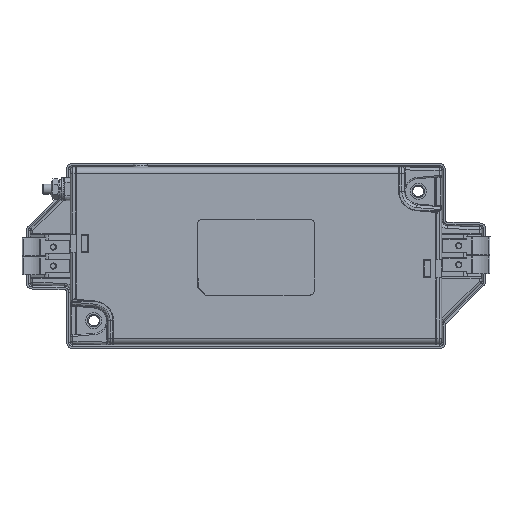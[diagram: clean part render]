
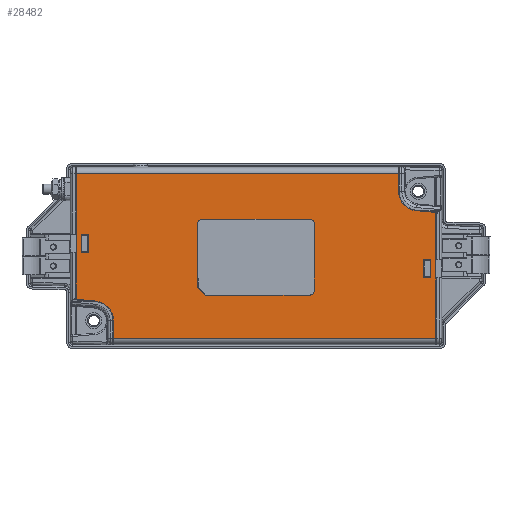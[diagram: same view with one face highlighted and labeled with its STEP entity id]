
A CAD part, top view. The second image highlights one B-rep face of the part: STEP entity #28482.
In plain terms, the highlighted planar face has unit normal (0, 0, 1).
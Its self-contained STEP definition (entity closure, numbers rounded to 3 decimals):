
#916=FACE_BOUND('',#4535,.T.);
#917=FACE_BOUND('',#4536,.T.);
#918=FACE_BOUND('',#4537,.T.);
#1389=PLANE('',#30518);
#2930=FACE_OUTER_BOUND('',#4534,.T.);
#4534=EDGE_LOOP('',(#21822,#21823,#21824,#21825,#21826,#21827,#21828,#21829,
#21830,#21831,#21832,#21833));
#4535=EDGE_LOOP('',(#21834,#21835,#21836,#21837));
#4536=EDGE_LOOP('',(#21838,#21839,#21840,#21841));
#4537=EDGE_LOOP('',(#21842,#21843,#21844,#21845,#21846,#21847,#21848,#21849,
#21850,#21851));
#6827=LINE('',#44644,#9540);
#6831=LINE('',#44656,#9544);
#6835=LINE('',#44667,#9548);
#6839=LINE('',#44675,#9552);
#6842=LINE('',#44679,#9555);
#6843=LINE('',#44684,#9556);
#6844=LINE('',#44686,#9557);
#6845=LINE('',#44690,#9558);
#6846=LINE('',#44692,#9559);
#6847=LINE('',#44694,#9560);
#6848=LINE('',#44696,#9561);
#6849=LINE('',#44698,#9562);
#6850=LINE('',#44702,#9563);
#6851=LINE('',#44704,#9564);
#6852=LINE('',#44705,#9565);
#6853=LINE('',#44708,#9566);
#6854=LINE('',#44710,#9567);
#6855=LINE('',#44712,#9568);
#6856=LINE('',#44713,#9569);
#6857=LINE('',#44716,#9570);
#6858=LINE('',#44718,#9571);
#6859=LINE('',#44720,#9572);
#6860=LINE('',#44721,#9573);
#6861=LINE('',#44722,#9574);
#6862=LINE('',#44723,#9575);
#9540=VECTOR('',#35590,10.);
#9544=VECTOR('',#35602,10.);
#9548=VECTOR('',#35614,10.);
#9552=VECTOR('',#35620,10.);
#9555=VECTOR('',#35625,10.);
#9556=VECTOR('',#35630,10.);
#9557=VECTOR('',#35631,10.);
#9558=VECTOR('',#35634,10.);
#9559=VECTOR('',#35635,10.);
#9560=VECTOR('',#35636,10.);
#9561=VECTOR('',#35637,10.);
#9562=VECTOR('',#35638,10.);
#9563=VECTOR('',#35641,10.);
#9564=VECTOR('',#35642,10.);
#9565=VECTOR('',#35643,10.);
#9566=VECTOR('',#35644,10.);
#9567=VECTOR('',#35645,10.);
#9568=VECTOR('',#35646,10.);
#9569=VECTOR('',#35647,10.);
#9570=VECTOR('',#35648,10.);
#9571=VECTOR('',#35649,10.);
#9572=VECTOR('',#35650,10.);
#9573=VECTOR('',#35651,10.);
#9574=VECTOR('',#35652,10.);
#9575=VECTOR('',#35653,10.);
#11188=CIRCLE('',#30505,2.);
#11190=CIRCLE('',#30509,2.);
#11192=CIRCLE('',#30513,2.);
#11193=CIRCLE('',#30519,7.5);
#11194=CIRCLE('',#30520,7.5);
#12859=VERTEX_POINT('',#44621);
#12863=VERTEX_POINT('',#44628);
#12864=VERTEX_POINT('',#44630);
#12867=VERTEX_POINT('',#44637);
#12868=VERTEX_POINT('',#44639);
#12869=VERTEX_POINT('',#44643);
#12872=VERTEX_POINT('',#44651);
#12873=VERTEX_POINT('',#44655);
#12876=VERTEX_POINT('',#44663);
#12879=VERTEX_POINT('',#44674);
#12880=VERTEX_POINT('',#44682);
#12881=VERTEX_POINT('',#44683);
#12882=VERTEX_POINT('',#44685);
#12883=VERTEX_POINT('',#44687);
#12884=VERTEX_POINT('',#44689);
#12885=VERTEX_POINT('',#44691);
#12886=VERTEX_POINT('',#44693);
#12887=VERTEX_POINT('',#44695);
#12888=VERTEX_POINT('',#44697);
#12889=VERTEX_POINT('',#44699);
#12890=VERTEX_POINT('',#44701);
#12891=VERTEX_POINT('',#44703);
#12892=VERTEX_POINT('',#44706);
#12893=VERTEX_POINT('',#44707);
#12894=VERTEX_POINT('',#44709);
#12895=VERTEX_POINT('',#44711);
#12896=VERTEX_POINT('',#44714);
#12897=VERTEX_POINT('',#44715);
#12898=VERTEX_POINT('',#44717);
#12899=VERTEX_POINT('',#44719);
#16040=EDGE_CURVE('',#12868,#12867,#11188,.T.);
#16042=EDGE_CURVE('',#12869,#12868,#6827,.T.);
#16046=EDGE_CURVE('',#12872,#12869,#11190,.T.);
#16048=EDGE_CURVE('',#12873,#12872,#6831,.T.);
#16052=EDGE_CURVE('',#12876,#12873,#11192,.T.);
#16054=EDGE_CURVE('',#12859,#12876,#6835,.T.);
#16058=EDGE_CURVE('',#12879,#12863,#6839,.T.);
#16061=EDGE_CURVE('',#12867,#12879,#6842,.T.);
#16062=EDGE_CURVE('',#12880,#12881,#6843,.T.);
#16063=EDGE_CURVE('',#12880,#12882,#6844,.T.);
#16064=EDGE_CURVE('',#12882,#12883,#11193,.T.);
#16065=EDGE_CURVE('',#12883,#12884,#6845,.T.);
#16066=EDGE_CURVE('',#12884,#12885,#6846,.T.);
#16067=EDGE_CURVE('',#12886,#12885,#6847,.T.);
#16068=EDGE_CURVE('',#12887,#12886,#6848,.T.);
#16069=EDGE_CURVE('',#12887,#12888,#6849,.T.);
#16070=EDGE_CURVE('',#12888,#12889,#11194,.T.);
#16071=EDGE_CURVE('',#12889,#12890,#6850,.T.);
#16072=EDGE_CURVE('',#12890,#12891,#6851,.T.);
#16073=EDGE_CURVE('',#12881,#12891,#6852,.T.);
#16074=EDGE_CURVE('',#12892,#12893,#6853,.T.);
#16075=EDGE_CURVE('',#12893,#12894,#6854,.T.);
#16076=EDGE_CURVE('',#12894,#12895,#6855,.T.);
#16077=EDGE_CURVE('',#12895,#12892,#6856,.T.);
#16078=EDGE_CURVE('',#12896,#12897,#6857,.T.);
#16079=EDGE_CURVE('',#12897,#12898,#6858,.T.);
#16080=EDGE_CURVE('',#12898,#12899,#6859,.T.);
#16081=EDGE_CURVE('',#12899,#12896,#6860,.T.);
#16082=EDGE_CURVE('',#12863,#12864,#6861,.T.);
#16083=EDGE_CURVE('',#12864,#12859,#6862,.T.);
#21822=ORIENTED_EDGE('',*,*,#16062,.F.);
#21823=ORIENTED_EDGE('',*,*,#16063,.T.);
#21824=ORIENTED_EDGE('',*,*,#16064,.T.);
#21825=ORIENTED_EDGE('',*,*,#16065,.T.);
#21826=ORIENTED_EDGE('',*,*,#16066,.T.);
#21827=ORIENTED_EDGE('',*,*,#16067,.F.);
#21828=ORIENTED_EDGE('',*,*,#16068,.F.);
#21829=ORIENTED_EDGE('',*,*,#16069,.T.);
#21830=ORIENTED_EDGE('',*,*,#16070,.T.);
#21831=ORIENTED_EDGE('',*,*,#16071,.T.);
#21832=ORIENTED_EDGE('',*,*,#16072,.T.);
#21833=ORIENTED_EDGE('',*,*,#16073,.F.);
#21834=ORIENTED_EDGE('',*,*,#16074,.T.);
#21835=ORIENTED_EDGE('',*,*,#16075,.T.);
#21836=ORIENTED_EDGE('',*,*,#16076,.T.);
#21837=ORIENTED_EDGE('',*,*,#16077,.T.);
#21838=ORIENTED_EDGE('',*,*,#16078,.T.);
#21839=ORIENTED_EDGE('',*,*,#16079,.T.);
#21840=ORIENTED_EDGE('',*,*,#16080,.T.);
#21841=ORIENTED_EDGE('',*,*,#16081,.T.);
#21842=ORIENTED_EDGE('',*,*,#16054,.T.);
#21843=ORIENTED_EDGE('',*,*,#16052,.T.);
#21844=ORIENTED_EDGE('',*,*,#16048,.T.);
#21845=ORIENTED_EDGE('',*,*,#16046,.T.);
#21846=ORIENTED_EDGE('',*,*,#16042,.T.);
#21847=ORIENTED_EDGE('',*,*,#16040,.T.);
#21848=ORIENTED_EDGE('',*,*,#16061,.T.);
#21849=ORIENTED_EDGE('',*,*,#16058,.T.);
#21850=ORIENTED_EDGE('',*,*,#16082,.T.);
#21851=ORIENTED_EDGE('',*,*,#16083,.T.);
#28482=ADVANCED_FACE('',(#2930,#916,#917,#918),#1389,.T.);
#30505=AXIS2_PLACEMENT_3D('',#44640,#35585,#35586);
#30509=AXIS2_PLACEMENT_3D('',#44652,#35597,#35598);
#30513=AXIS2_PLACEMENT_3D('',#44664,#35609,#35610);
#30518=AXIS2_PLACEMENT_3D('',#44681,#35628,#35629);
#30519=AXIS2_PLACEMENT_3D('',#44688,#35632,#35633);
#30520=AXIS2_PLACEMENT_3D('',#44700,#35639,#35640);
#35585=DIRECTION('center_axis',(0.,0.,-1.));
#35586=DIRECTION('ref_axis',(0.707,-0.707,0.));
#35590=DIRECTION('',(0.,-1.,0.));
#35597=DIRECTION('center_axis',(0.,0.,-1.));
#35598=DIRECTION('ref_axis',(0.707,0.707,0.));
#35602=DIRECTION('',(1.,0.,0.));
#35609=DIRECTION('center_axis',(0.,0.,-1.));
#35610=DIRECTION('ref_axis',(-0.707,0.707,0.));
#35614=DIRECTION('',(0.,1.,0.));
#35620=DIRECTION('',(-0.707,0.707,0.));
#35625=DIRECTION('',(-1.,0.,0.));
#35628=DIRECTION('center_axis',(0.,0.,1.));
#35629=DIRECTION('ref_axis',(0.,-1.,0.));
#35630=DIRECTION('',(-0.676,0.737,0.));
#35631=DIRECTION('',(0.996,-0.087,0.));
#35632=DIRECTION('center_axis',(0.,0.,-1.));
#35633=DIRECTION('ref_axis',(1.,0.,0.));
#35634=DIRECTION('',(0.,-1.,0.));
#35635=DIRECTION('',(1.,0.,0.));
#35636=DIRECTION('',(0.,-1.,0.));
#35637=DIRECTION('',(0.676,-0.737,0.));
#35638=DIRECTION('',(-0.996,0.087,0.));
#35639=DIRECTION('center_axis',(0.,0.,-1.));
#35640=DIRECTION('ref_axis',(-1.,0.,0.));
#35641=DIRECTION('',(0.,1.,0.));
#35642=DIRECTION('',(-1.,0.,0.));
#35643=DIRECTION('',(0.,1.,0.));
#35644=DIRECTION('',(1.,0.,0.));
#35645=DIRECTION('',(0.,-1.,0.));
#35646=DIRECTION('',(-1.,0.,0.));
#35647=DIRECTION('',(0.,1.,0.));
#35648=DIRECTION('',(-1.,0.,0.));
#35649=DIRECTION('',(0.,1.,0.));
#35650=DIRECTION('',(1.,0.,0.));
#35651=DIRECTION('',(0.,-1.,0.));
#35652=DIRECTION('',(-0.707,0.707,0.));
#35653=DIRECTION('',(0.,1.,0.));
#44621=CARTESIAN_POINT('',(-3.,-9.025,34.9));
#44628=CARTESIAN_POINT('',(-0.525,-15.,34.9));
#44630=CARTESIAN_POINT('',(-3.,-12.525,34.9));
#44637=CARTESIAN_POINT('',(41.,-15.525,34.9));
#44639=CARTESIAN_POINT('',(43.,-13.525,34.9));
#44640=CARTESIAN_POINT('Origin',(41.,-13.525,34.9));
#44643=CARTESIAN_POINT('',(43.,12.475,34.9));
#44644=CARTESIAN_POINT('',(43.,7.237,34.9));
#44651=CARTESIAN_POINT('',(41.,14.475,34.9));
#44652=CARTESIAN_POINT('Origin',(41.,12.475,34.9));
#44655=CARTESIAN_POINT('',(-1.,14.475,34.9));
#44656=CARTESIAN_POINT('',(8.5,14.475,34.9));
#44663=CARTESIAN_POINT('',(-3.,12.475,34.9));
#44664=CARTESIAN_POINT('Origin',(-1.,12.475,34.9));
#44667=CARTESIAN_POINT('',(-3.,-7.763,34.9));
#44674=CARTESIAN_POINT('',(0.,-15.525,34.9));
#44675=CARTESIAN_POINT('',(0.369,-15.894,34.9));
#44679=CARTESIAN_POINT('',(31.5,-15.525,34.9));
#44681=CARTESIAN_POINT('Origin',(20.,0.,34.9));
#44682=CARTESIAN_POINT('',(-50.502,-17.185,34.9));
#44683=CARTESIAN_POINT('',(-51.,-16.641,34.9));
#44684=CARTESIAN_POINT('',(-38.817,-29.937,34.9));
#44685=CARTESIAN_POINT('',(-43.146,-17.829,34.9));
#44686=CARTESIAN_POINT('',(-16.514,-20.159,34.9));
#44687=CARTESIAN_POINT('',(-36.3,-25.3,34.9));
#44688=CARTESIAN_POINT('Origin',(-43.8,-25.3,34.9));
#44689=CARTESIAN_POINT('',(-36.3,-32.5,34.9));
#44690=CARTESIAN_POINT('',(-36.3,-12.65,34.9));
#44691=CARTESIAN_POINT('',(91.,-32.5,34.9));
#44692=CARTESIAN_POINT('',(-15.5,-32.5,34.9));
#44693=CARTESIAN_POINT('',(91.,16.641,34.9));
#44694=CARTESIAN_POINT('',(91.,-35.,34.9));
#44695=CARTESIAN_POINT('',(90.502,17.185,34.9));
#44696=CARTESIAN_POINT('',(78.817,29.937,34.9));
#44697=CARTESIAN_POINT('',(83.146,17.829,34.9));
#44698=CARTESIAN_POINT('',(56.514,20.159,34.9));
#44699=CARTESIAN_POINT('',(76.3,25.3,34.9));
#44700=CARTESIAN_POINT('Origin',(83.8,25.3,34.9));
#44701=CARTESIAN_POINT('',(76.3,32.5,34.9));
#44702=CARTESIAN_POINT('',(76.3,12.65,34.9));
#44703=CARTESIAN_POINT('',(-51.,32.5,34.9));
#44704=CARTESIAN_POINT('',(55.5,32.5,34.9));
#44705=CARTESIAN_POINT('',(-51.,35.,34.9));
#44706=CARTESIAN_POINT('',(-49.,8.5,34.9));
#44707=CARTESIAN_POINT('',(-46.,8.5,34.9));
#44708=CARTESIAN_POINT('',(-14.5,8.5,34.9));
#44709=CARTESIAN_POINT('',(-46.,1.5,34.9));
#44710=CARTESIAN_POINT('',(-46.,2.5,34.9));
#44711=CARTESIAN_POINT('',(-49.,1.5,34.9));
#44712=CARTESIAN_POINT('',(-13.,1.5,34.9));
#44713=CARTESIAN_POINT('',(-49.,0.75,34.9));
#44714=CARTESIAN_POINT('',(89.,-8.5,34.9));
#44715=CARTESIAN_POINT('',(86.,-8.5,34.9));
#44716=CARTESIAN_POINT('',(54.5,-8.5,34.9));
#44717=CARTESIAN_POINT('',(86.,-1.5,34.9));
#44718=CARTESIAN_POINT('',(86.,-2.5,34.9));
#44719=CARTESIAN_POINT('',(89.,-1.5,34.9));
#44720=CARTESIAN_POINT('',(53.,-1.5,34.9));
#44721=CARTESIAN_POINT('',(89.,-0.75,34.9));
#44722=CARTESIAN_POINT('',(0.856,-16.381,34.9));
#44723=CARTESIAN_POINT('',(-3.,-6.263,34.9));
